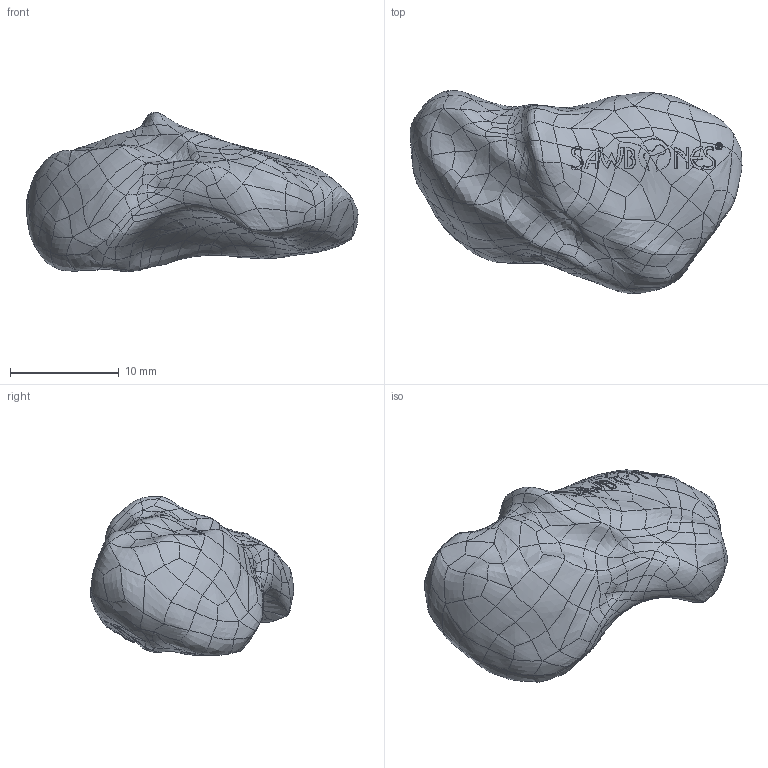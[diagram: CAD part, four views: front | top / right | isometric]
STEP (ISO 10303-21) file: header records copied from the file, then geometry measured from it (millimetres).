
FILE_DESCRIPTION (( 'STEP AP203' ), '1' );
FILE_NAME ('1009.STEP', '2026-07-20T17:44:20', ( '' ), ( '' ), 'SwSTEP 2.0', 'SolidWorks 2024', '' );
FILE_SCHEMA (( 'CONFIG_CONTROL_DESIGN' ));
Products named in the file (1): 1009
Bounding box: 30.46 x 18.63 x 14.61 mm (x, y, z)
Volume: 3239.4 mm3; surface area: 1349.1 mm2
Topology: 1 solids, 1 shells, 706 faces, 1594 edges, 895 vertices
Faces by surface type: bspline 706
Entity records: 105652 total; most frequent: CARTESIAN_POINT 95463, ORIENTED_EDGE 3188, B_SPLINE_CURVE_WITH_KNOTS 1594, EDGE_CURVE 1594, VERTEX_POINT 895, EDGE_LOOP 711, B_SPLINE_SURFACE_WITH_KNOTS 706, ADVANCED_FACE 706
